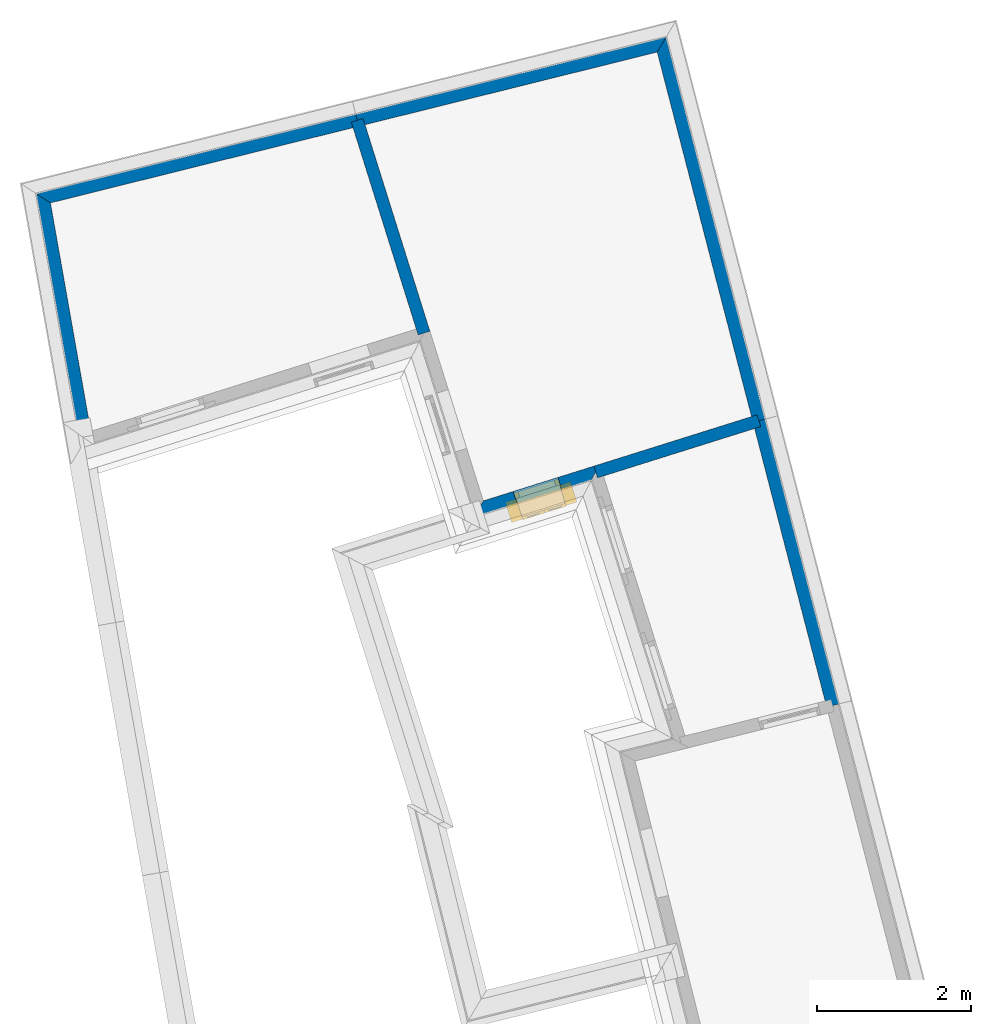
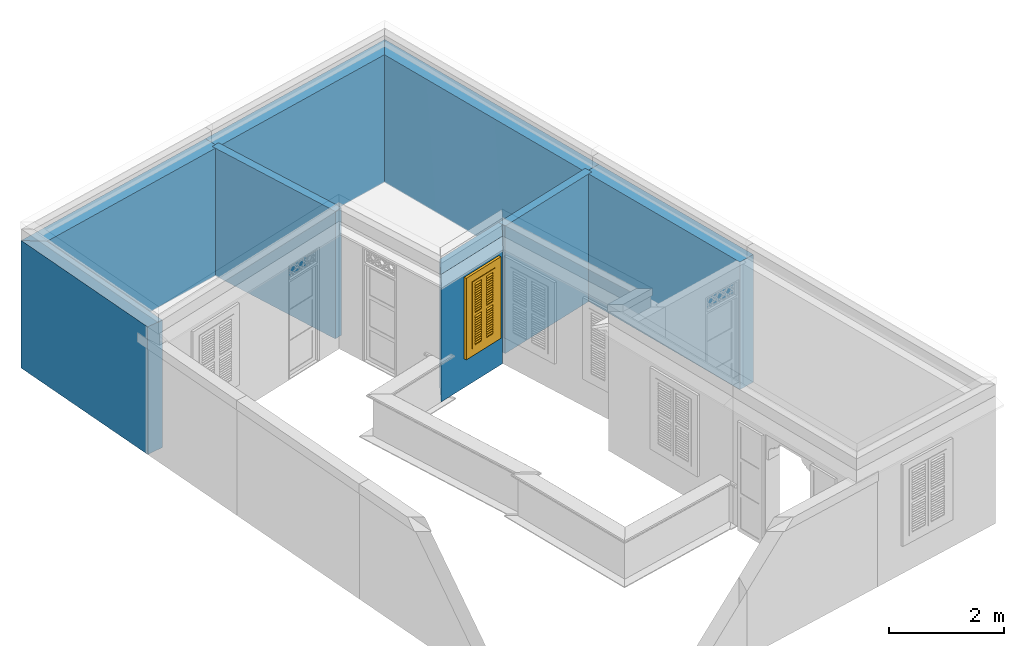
# One storey, part 10 of 13: 8 walls, 1 window, 1 opening.
"""IFC4 building model written with IfcOpenShell, lengths in metres."""

import ifcopenshell
import ifcopenshell.guid

model = None  # the IFC model being written
_history = None  # IfcOwnerHistory: only IFC2X3 demands one
_inside = {}  # id of a spatial element -> (the spatial element, [elements in it])
_under = {}  # id of a project, library or spatial element -> (it, [spatial elements below it])
_declared = {}  # id of a project -> (the project, [libraries it declares])
_typed = {}  # id of a type object -> (the type object, [elements of that type])
_made_of = {}  # id of a material, layer set ... -> (it, [elements and type objects made of it])


def new_model(schema):
    """Start an empty IFC model of exactly this schema.

    Asked for "IFC4X3", IfcOpenShell would pick the latest addendum, in which some entities
    have other attributes; the version numbers below select the first issue.
    IFC2X3 requires an IfcOwnerHistory on every rooted entity: one is made here for all.
    """
    global model, _history
    if schema == "IFC4X3":
        model = ifcopenshell.file(schema_version=(4, 3, 0, 0))
    else:
        model = ifcopenshell.file(schema=schema)
    _inside.clear()
    _under.clear()
    _declared.clear()
    _typed.clear()
    _made_of.clear()
    _history = None
    if model.schema == "IFC2X3":
        org = make("IfcOrganization", Name="unknown")
        user = make(
            "IfcPersonAndOrganization",
            ThePerson=make("IfcPerson", FamilyName="unknown"),
            TheOrganization=org,
        )
        app = make(
            "IfcApplication",
            ApplicationDeveloper=org,
            Version="unknown",
            ApplicationFullName="unknown",
            ApplicationIdentifier="unknown",
        )
        _history = make(
            "IfcOwnerHistory",
            OwningUser=user,
            OwningApplication=app,
            ChangeAction="ADDED",
            CreationDate=0,
        )
    return model


def make(cls, **values):
    """One entity of the class cls with the attributes given. An attribute that is None is left unset."""
    return model.create_entity(
        cls, **{name: value for name, value in values.items() if value is not None}
    )


def rooted(cls, **values):
    """An entity with a GlobalId (a new one), such as an element, a storey or a relation."""
    return make(cls, GlobalId=ifcopenshell.guid.new(), OwnerHistory=_history, **values)


def si_unit(unit_type, name, prefix=None):
    """IfcSIUnit, for example si_unit("LENGTHUNIT", "METRE", prefix="MILLI")."""
    return make("IfcSIUnit", UnitType=unit_type, Prefix=prefix, Name=name)


def assignment(units):
    """IfcUnitAssignment: the units of a project."""
    return None if units is None else make("IfcUnitAssignment", Units=units)


def point(xyz):
    """IfcCartesianPoint."""
    return None if xyz is None else make("IfcCartesianPoint", Coordinates=xyz)


def direction(xyz):
    """IfcDirection."""
    return None if xyz is None else make("IfcDirection", DirectionRatios=xyz)


def frame(location, z_axis=None, x_axis=None):
    """IfcAxis2Placement3D, a coordinate frame: its origin and axes. An axis left out is left unset."""
    return make(
        "IfcAxis2Placement3D",
        Location=point(location),
        Axis=direction(z_axis),
        RefDirection=direction(x_axis),
    )


def origin():
    """The frame at (0, 0, 0) with its axes left unset."""
    return frame((0.0, 0.0, 0.0))


def origin_with_axes():
    """The frame at (0, 0, 0) with the z axis (0, 0, 1) and the x axis (1, 0, 0) written out."""
    return frame((0.0, 0.0, 0.0), z_axis=(0.0, 0.0, 1.0), x_axis=(1.0, 0.0, 0.0))


def place(relative_to, where):
    """IfcLocalPlacement: puts the frame where relative to a parent placement (None: the world)."""
    return make(
        "IfcLocalPlacement", PlacementRelTo=relative_to, RelativePlacement=where
    )


def context(
    kind, dimensions, precision=None, world=None, true_north=None, identifier=None
):
    """IfcGeometricRepresentationContext, for example the 3D "Model" context."""
    return make(
        "IfcGeometricRepresentationContext",
        ContextIdentifier=identifier,
        ContextType=kind,
        CoordinateSpaceDimension=dimensions,
        Precision=precision,
        WorldCoordinateSystem=world,
        TrueNorth=true_north,
    )


def subcontext(parent, identifier, kind, view, scale=None):
    """IfcGeometricRepresentationSubContext, for example "Body" below "Model"."""
    return make(
        "IfcGeometricRepresentationSubContext",
        ContextIdentifier=identifier,
        ContextType=kind,
        ParentContext=parent,
        TargetScale=scale,
        TargetView=view,
    )


def project(units=None, contexts=None):
    """IfcProject with its units and contexts."""
    return rooted(
        "IfcProject",
        Name="project",
        RepresentationContexts=contexts,
        UnitsInContext=assignment(units),
    )


def spatial(cls, under=None, at=None, **own):
    """A site, building, storey or space (cls), placed at a placement, below another one or the project."""
    s = rooted(cls, ObjectPlacement=at, **own)
    if under is not None:
        _under.setdefault(under.id(), (under, []))[1].append(s)
    return s


def polyline(points):
    """IfcPolyline through the points."""
    return make("IfcPolyline", Points=[point(p) for p in points])


def outline(outer, holes=None, kind="AREA"):
    """IfcArbitraryClosedProfileDef: a profile drawn as a closed curve; with holes, ...WithVoids."""
    if holes is None:
        return make("IfcArbitraryClosedProfileDef", ProfileType=kind, OuterCurve=outer)
    return make(
        "IfcArbitraryProfileDefWithVoids",
        ProfileType=kind,
        OuterCurve=outer,
        InnerCurves=holes,
    )


def extrude(swept, where, along, depth):
    """IfcExtrudedAreaSolid: the profile swept, set in the frame where, extruded along a direction by depth."""
    return make(
        "IfcExtrudedAreaSolid",
        SweptArea=swept,
        Position=where,
        ExtrudedDirection=direction(along),
        Depth=depth,
    )


def faces_of(points, faces, orient=None, outer=None):
    """IfcFace entities. A face is a list of loops; a loop is a list of indices into points, from 0.

    orient and outer hold one flag for each loop. By default every Orientation is true, the
    first loop of a face is its IfcFaceOuterBound and the others are IfcFaceBound.
    """
    made = []
    for i, loops in enumerate(faces):
        bounds = []
        for j, loop in enumerate(loops):
            is_outer = j == 0 if outer is None else outer[i][j]
            bounds.append(
                make(
                    "IfcFaceOuterBound" if is_outer else "IfcFaceBound",
                    Bound=make("IfcPolyLoop", Polygon=[points[k] for k in loop]),
                    Orientation=True if orient is None else orient[i][j],
                )
            )
        made.append(make("IfcFace", Bounds=bounds))
    return made


def faceted_brep(points, faces, orient=None, outer=None, voids=None):
    """IfcFacetedBrep: a solid bounded by flat faces; with voids (closed shells), ...WithVoids."""
    shared = [point(p) for p in points]
    hull = make("IfcClosedShell", CfsFaces=faces_of(shared, faces, orient, outer))
    if voids is None:
        return make("IfcFacetedBrep", Outer=hull)
    return make(
        "IfcFacetedBrepWithVoids",
        Outer=hull,
        Voids=[
            make(cls, CfsFaces=faces_of(shared, fs, o, b)) for cls, fs, o, b in voids
        ],
    )


def shape(context_of_items, identifier, shape_type, items):
    """IfcShapeRepresentation: the items that make up one representation, for example the "Body"."""
    return make(
        "IfcShapeRepresentation",
        ContextOfItems=context_of_items,
        RepresentationIdentifier=identifier,
        RepresentationType=shape_type,
        Items=items,
    )


def source(mapping_origin, context_of_items, identifier, shape_type, items):
    """IfcRepresentationMap: a shape defined once, which mapped items show again and again."""
    return make(
        "IfcRepresentationMap",
        MappingOrigin=mapping_origin,
        MappedRepresentation=shape(context_of_items, identifier, shape_type, items),
    )


def transform(
    local_origin,
    x_axis=None,
    y_axis=None,
    z_axis=None,
    scale=None,
    scale2=None,
    scale3=None,
    uniform=True,
):
    """IfcCartesianTransformationOperator3D, or its non-uniform kind. x_axis, y_axis, z_axis: its Axis1, 2, 3."""
    if uniform:
        return make(
            "IfcCartesianTransformationOperator3D",
            Axis1=direction(x_axis),
            Axis2=direction(y_axis),
            LocalOrigin=point(local_origin),
            Scale=scale,
            Axis3=direction(z_axis),
        )
    return make(
        "IfcCartesianTransformationOperator3DnonUniform",
        Axis1=direction(x_axis),
        Axis2=direction(y_axis),
        LocalOrigin=point(local_origin),
        Scale=scale,
        Axis3=direction(z_axis),
        Scale2=scale2,
        Scale3=scale3,
    )


def mapped(mapping_source, mapping_target):
    """IfcMappedItem: shows the shape of a source again, moved by a transform."""
    return make(
        "IfcMappedItem", MappingSource=mapping_source, MappingTarget=mapping_target
    )


def material(Name=None, Category=None):
    """IfcMaterial."""
    return make("IfcMaterial", Name=Name, Category=Category)


def layer(
    of_material, thickness, ventilated=None, Name=None, Category=None, Priority=None
):
    """IfcMaterialLayer: one layer of a wall or slab, of a material (None: an air gap)."""
    return make(
        "IfcMaterialLayer",
        Material=of_material,
        LayerThickness=thickness,
        IsVentilated=ventilated,
        Name=Name,
        Category=Category,
        Priority=Priority,
    )


def layer_set(layers, Name=None):
    """IfcMaterialLayerSet."""
    return make("IfcMaterialLayerSet", MaterialLayers=layers, LayerSetName=Name)


def layer_usage(for_layer_set, set_direction, sense, offset, extent=None):
    """IfcMaterialLayerSetUsage: how a layer set lies in its element."""
    return make(
        "IfcMaterialLayerSetUsage",
        ForLayerSet=for_layer_set,
        LayerSetDirection=set_direction,
        DirectionSense=sense,
        OffsetFromReferenceLine=offset,
        ReferenceExtent=extent,
    )


def made_of(thing, what):
    """Note that an element or type object is made of a material, layer set ...; save() writes the relation."""
    if what is not None:
        _made_of.setdefault(what.id(), (what, []))[1].append(thing)
    return thing


def type_object(cls, material=None, **own):
    """A type object (cls), such as IfcWallType, which elements share."""
    return made_of(rooted(cls, **own), material)


def type_shapes(of_type, sources):
    """Give a type object the sources (RepresentationMaps) that its elements show as mapped items."""
    of_type.RepresentationMaps = sources


def element(
    cls,
    number,
    at=None,
    inside=None,
    cuts=None,
    type_object=None,
    material=None,
    context=None,
    identifier="Body",
    shape_type=None,
    held_by="IfcProductDefinitionShape",
    body=None,
    shapes=None,
    **own,
):
    """One element of the class cls, such as IfcWall. Its Tag is "e" and its number.

    at: its placement. inside: the storey or other place that contains it. cuts: it is an
    opening in that element (IfcRelVoidsElement). A single representation is given by context,
    identifier, shape_type and body (its items); several are given by shapes. held_by: the class
    of the entity that holds the representations. save() writes the other relations.
    """
    e = rooted(cls, Tag="e%d" % number, ObjectPlacement=at, **own)
    if body is not None:
        shapes = [shape(context, identifier, shape_type, body)]
    if shapes is not None:
        e.Representation = make(held_by, Representations=shapes)
    if inside is not None:
        _inside.setdefault(inside.id(), (inside, []))[1].append(e)
    if cuts is not None:
        rooted(
            "IfcRelVoidsElement", RelatingBuildingElement=cuts, RelatedOpeningElement=e
        )
    if type_object is not None:
        _typed.setdefault(type_object.id(), (type_object, []))[1].append(e)
    return made_of(e, material)


def fill(opening, filler):
    """IfcRelFillsElement: the door or window that sits in an opening."""
    return rooted(
        "IfcRelFillsElement",
        RelatingOpeningElement=opening,
        RelatedBuildingElement=filler,
    )


def aggregate(whole, parts):
    """IfcRelAggregates: a whole, such as a stair, and the parts it consists of."""
    return rooted("IfcRelAggregates", RelatingObject=whole, RelatedObjects=parts)


def save(model, path):
    """Write the relations noted so far, then the file.

    IfcRelAggregates (storeys below a building ...), IfcRelContainedInSpatialStructure (elements
    in a storey), IfcRelDefinesByType, IfcRelAssociatesMaterial and IfcRelDeclares: one each for
    every whole, place, type object, material and project.
    """
    for whole, parts in _under.values():
        aggregate(whole, parts)
    for where, things in _inside.values():
        rooted(
            "IfcRelContainedInSpatialStructure",
            RelatedElements=things,
            RelatingStructure=where,
        )
    for kind, things in _typed.values():
        rooted("IfcRelDefinesByType", RelatedObjects=things, RelatingType=kind)
    for what, things in _made_of.values():
        rooted("IfcRelAssociatesMaterial", RelatedObjects=things, RelatingMaterial=what)
    for by, libraries in _declared.values():
        rooted("IfcRelDeclares", RelatingContext=by, RelatedDefinitions=libraries)
    model.write(path)


model = new_model("IFC4")

# Units and contexts
model_context = context("Model", 3, world=origin_with_axes())
body_context = subcontext(model_context, "Body", "Model", "MODEL_VIEW")
ifc_project = project(units=[si_unit("PLANEANGLEUNIT", "RADIAN"), si_unit("MASSUNIT", "GRAM", prefix="KILO"), si_unit("FORCEUNIT", "NEWTON", prefix="KILO"), si_unit("LENGTHUNIT", "METRE"), si_unit("AREAUNIT", "SQUARE_METRE"), si_unit("VOLUMEUNIT", "CUBIC_METRE")], contexts=[model_context, model_context])

# Site, building, storey
site_placement = place(None, origin_with_axes())
site = spatial("IfcSite", under=ifc_project, at=site_placement, Name="Site plot-0", CompositionType="ELEMENT")
building_placement = place(None, origin_with_axes())
building = spatial("IfcBuilding", under=site, at=building_placement, Name="Building plot-0", CompositionType="ELEMENT")
storey_placement = place(None, frame((0.0, 0.0, 3.6), z_axis=(0.0, 0.0, 1.0), x_axis=(1.0, 0.0, 0.0)))
storey = spatial("IfcBuildingStorey", under=building, at=storey_placement, Name="plot-0 1", CompositionType="ELEMENT", Elevation=3.6)

# Wall, opening, window
ifc_material_1 = material(Name="Masonry")
ifc_layer_1 = layer(ifc_material_1, 0.33, ventilated=False)
ifc_layer_set_1 = layer_set([ifc_layer_1], Name="exterior_0.08_0.25")
ifc_layer_usage_1 = layer_usage(ifc_layer_set_1, "AXIS2", "POSITIVE", -0.25)
wall_type_1 = type_object("IfcWallType", Name="exterior_0.08_0.25", PredefinedType="SOLIDWALL", material=ifc_layer_set_1)
wall_1_placement = place(storey_placement, frame((4.82576473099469, 9.29464982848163, 0.0), z_axis=(0.0, 0.0, 1.0), x_axis=(0.954025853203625, 0.299724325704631, 0.0)))
wall_1 = element("IfcWall", 1, at=wall_1_placement, inside=storey, type_object=wall_type_1, material=ifc_layer_usage_1, Name="exterior", context=body_context, shape_type="SweptSolid", body=[
    extrude(outline(polyline([(0.0799999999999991, 0.0799999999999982), (-0.25, -0.250000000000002), (1.33557370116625, -0.25), (1.66557370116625, 0.0799999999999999), (0.0799999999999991, 0.0799999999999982)])), origin_with_axes(), (0.0, 0.0, 1.0), 2.7),
])
opening_placement = place(wall_1_placement, frame((0.487786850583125, 0.0, 0.75)))
opening = element("IfcOpeningElement", 2, at=opening_placement, cuts=wall_1, Name="My Opening", ObjectType="Opening", context=body_context, shape_type="SweptSolid", body=[
    extrude(outline(polyline([(0.0, -0.27), (0.609999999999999, -0.27), (0.61, 1.1), (6.66133814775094e-16, 1.1), (0.0, -0.27)])), origin_with_axes(), (0.0, 0.0, 1.0), 1.445),
])
window_type = type_object("IfcWindowType", Name="shuttered_shorter_narrow", PartitioningType="DOUBLE_PANEL_HORIZONTAL", PredefinedType="NOTDEFINED")
shared_shape = source(origin(), body_context, "Body", "Brep", [
    faceted_brep([(0.243, 0.0, 0.622), (0.074, 0.0, 0.622), (0.074, 0.0, 0.632), (0.243, 0.0, 0.632), (0.074, -0.04, 0.592), (0.243, -0.04, 0.592), (0.243, -0.04, 0.582), (0.074, -0.04, 0.582), (0.367, 0.0, 0.682), (0.536, 0.0, 0.682), (0.536, 0.0, 0.672), (0.367, 0.0, 0.672), (0.367, -0.04, 0.642), (0.536, -0.04, 0.642), (0.536, -0.04, 0.632), (0.367, -0.04, 0.632), (0.367, 0.0, 0.632), (0.536, 0.0, 0.632), (0.536, 0.0, 0.622), (0.367, 0.0, 0.622), (0.367, -0.04, 0.592), (0.536, -0.04, 0.592), (0.536, -0.04, 0.582), (0.367, -0.04, 0.582), (0.367, 0.0, 0.232), (0.536, 0.0, 0.232), (0.536, 0.0, 0.222), (0.367, 0.0, 0.222), (0.367, -0.04, 0.192), (0.536, -0.04, 0.192), (0.536, -0.04, 0.182), (0.367, -0.04, 0.182), (0.367, 0.0, 0.532), (0.536, 0.0, 0.532), (0.536, 0.0, 0.522), (0.367, 0.0, 0.522), (0.367, -0.04, 0.492), (0.536, -0.04, 0.492), (0.536, -0.04, 0.482), (0.367, -0.04, 0.482), (0.367, 0.0, 0.482), (0.536, 0.0, 0.482), (0.536, 0.0, 0.472), (0.367, 0.0, 0.472), (0.367, -0.04, 0.442), (0.536, -0.04, 0.442), (0.536, -0.04, 0.432), (0.367, -0.04, 0.432), (0.367, 0.0, 0.582), (0.536, 0.0, 0.582), (0.536, 0.0, 0.572), (0.367, 0.0, 0.572), (0.367, -0.04, 0.542), (0.536, -0.04, 0.542), (0.536, -0.04, 0.532), (0.367, -0.04, 0.532), (0.367, 0.0, 0.182), (0.536, 0.0, 0.182), (0.536, 0.0, 0.172), (0.367, 0.0, 0.172), (0.367, -0.04, 0.142), (0.536, -0.04, 0.142), (0.536, -0.04, 0.132), (0.367, -0.04, 0.132), (0.367, 0.0, 0.382), (0.536, 0.0, 0.382), (0.536, 0.0, 0.372), (0.367, 0.0, 0.372), (0.367, -0.04, 0.342), (0.536, -0.04, 0.342), (0.536, -0.04, 0.332), (0.367, -0.04, 0.332), (0.367, 0.0, 0.432), (0.536, 0.0, 0.432), (0.536, 0.0, 0.422), (0.367, 0.0, 0.422), (0.367, -0.04, 0.392), (0.536, -0.04, 0.392), (0.536, -0.04, 0.382), (0.367, -0.04, 0.382), (0.367, 0.0, 0.132), (0.536, 0.0, 0.132), (0.536, 0.0, 0.122), (0.367, 0.0, 0.122), (0.367, -0.04, 0.092), (0.536, -0.04, 0.092), (0.536, -0.04, 0.082), (0.367, -0.04, 0.082), (0.367, 0.0, 0.282), (0.536, 0.0, 0.282), (0.536, 0.0, 0.272), (0.367, 0.0, 0.272), (0.367, -0.04, 0.242), (0.536, -0.04, 0.242), (0.536, -0.04, 0.232), (0.367, -0.04, 0.232), (0.367, 0.0, 0.332), (0.536, 0.0, 0.332), (0.536, 0.0, 0.322), (0.367, 0.0, 0.322), (0.367, -0.04, 0.292), (0.536, -0.04, 0.292), (0.536, -0.04, 0.282), (0.367, -0.04, 0.282), (0.367, 0.0, 1.362667), (0.536, 0.0, 1.362667), (0.536, 0.0, 1.352667), (0.367, 0.0, 1.352667), (0.367, -0.04, 1.322667), (0.536, -0.04, 1.322667), (0.536, -0.04, 1.312667), (0.367, -0.04, 1.312667), (0.367, 0.0, 1.312667), (0.536, 0.0, 1.312667), (0.536, 0.0, 1.302667), (0.367, 0.0, 1.302667), (0.367, -0.04, 1.272667), (0.536, -0.04, 1.272667), (0.536, -0.04, 1.262667), (0.367, -0.04, 1.262667), (0.367, 0.0, 0.912667), (0.536, 0.0, 0.912667), (0.536, 0.0, 0.902667), (0.367, 0.0, 0.902667), (0.367, -0.04, 0.872667), (0.536, -0.04, 0.872667), (0.536, -0.04, 0.862667), (0.367, -0.04, 0.862667), (0.367, 0.0, 1.212667), (0.536, 0.0, 1.212667), (0.536, 0.0, 1.202667), (0.367, 0.0, 1.202667), (0.367, -0.04, 1.172667), (0.536, -0.04, 1.172667), (0.536, -0.04, 1.162667), (0.367, -0.04, 1.162667), (0.367, 0.0, 1.162667), (0.536, 0.0, 1.162667), (0.536, 0.0, 1.152667), (0.367, 0.0, 1.152667), (0.367, -0.04, 1.122667), (0.536, -0.04, 1.122667), (0.536, -0.04, 1.112667), (0.367, -0.04, 1.112667), (0.367, 0.0, 1.262667), (0.536, 0.0, 1.262667), (0.536, 0.0, 1.252667), (0.367, 0.0, 1.252667), (0.367, -0.04, 1.222667), (0.536, -0.04, 1.222667), (0.536, -0.04, 1.212667), (0.367, -0.04, 1.212667), (0.367, 0.0, 0.862667), (0.536, 0.0, 0.862667), (0.536, 0.0, 0.852667), (0.367, 0.0, 0.852667), (0.367, -0.04, 0.822667), (0.536, -0.04, 0.822667), (0.536, -0.04, 0.812667), (0.367, -0.04, 0.812667), (0.367, 0.0, 1.062667), (0.536, 0.0, 1.062667), (0.536, 0.0, 1.052667), (0.367, 0.0, 1.052667), (0.367, -0.04, 1.022667), (0.536, -0.04, 1.022667), (0.536, -0.04, 1.012667), (0.367, -0.04, 1.012667), (0.367, 0.0, 1.112667), (0.536, 0.0, 1.112667), (0.536, 0.0, 1.102667), (0.367, 0.0, 1.102667), (0.367, -0.04, 1.072667), (0.536, -0.04, 1.072667), (0.536, -0.04, 1.062667), (0.367, -0.04, 1.062667), (0.367, 0.0, 0.812667), (0.536, 0.0, 0.812667), (0.536, 0.0, 0.802667), (0.367, 0.0, 0.802667), (0.367, -0.04, 0.772667), (0.536, -0.04, 0.772667), (0.536, -0.04, 0.762667), (0.367, -0.04, 0.762667), (0.367, 0.0, 0.962667), (0.536, 0.0, 0.962667), (0.536, 0.0, 0.952667), (0.367, 0.0, 0.952667), (0.367, -0.04, 0.922667), (0.536, -0.04, 0.922667), (0.536, -0.04, 0.912667), (0.367, -0.04, 0.912667), (0.367, 0.0, 1.012667), (0.536, 0.0, 1.012667), (0.536, 0.0, 1.002667), (0.367, 0.0, 1.002667), (0.367, -0.04, 0.972667), (0.536, -0.04, 0.972667), (0.536, -0.04, 0.962667), (0.367, -0.04, 0.962667), (0.074, 0.0, 0.682), (0.243, 0.0, 0.682), (0.243, 0.0, 0.672), (0.074, 0.0, 0.672), (0.074, -0.04, 0.642), (0.243, -0.04, 0.642), (0.243, -0.04, 0.632), (0.074, -0.04, 0.632), (0.074, 0.0, 0.232), (0.243, 0.0, 0.232), (0.243, 0.0, 0.222), (0.074, 0.0, 0.222), (0.074, -0.04, 0.192), (0.243, -0.04, 0.192), (0.243, -0.04, 0.182), (0.074, -0.04, 0.182), (0.074, 0.0, 0.532), (0.243, 0.0, 0.532), (0.243, 0.0, 0.522), (0.074, 0.0, 0.522), (0.074, -0.04, 0.492), (0.243, -0.04, 0.492), (0.243, -0.04, 0.482), (0.074, -0.04, 0.482), (0.074, 0.0, 0.482), (0.243, 0.0, 0.482), (0.243, 0.0, 0.472), (0.074, 0.0, 0.472), (0.074, -0.04, 0.442), (0.243, -0.04, 0.442), (0.243, -0.04, 0.432), (0.074, -0.04, 0.432), (0.074, 0.0, 0.582), (0.243, 0.0, 0.582), (0.243, 0.0, 0.572), (0.074, 0.0, 0.572), (0.074, -0.04, 0.542), (0.243, -0.04, 0.542), (0.243, -0.04, 0.532), (0.074, -0.04, 0.532), (0.074, 0.0, 0.182), (0.243, 0.0, 0.182), (0.243, 0.0, 0.172), (0.074, 0.0, 0.172), (0.074, -0.04, 0.142), (0.243, -0.04, 0.142), (0.243, -0.04, 0.132), (0.074, -0.04, 0.132), (0.074, 0.0, 0.382), (0.243, 0.0, 0.382), (0.243, 0.0, 0.372), (0.074, 0.0, 0.372), (0.074, -0.04, 0.342), (0.243, -0.04, 0.342), (0.243, -0.04, 0.332), (0.074, -0.04, 0.332), (0.074, 0.0, 0.432), (0.243, 0.0, 0.432), (0.243, 0.0, 0.422), (0.074, 0.0, 0.422), (0.074, -0.04, 0.392), (0.243, -0.04, 0.392), (0.243, -0.04, 0.382), (0.074, -0.04, 0.382), (0.074, 0.0, 0.132), (0.243, 0.0, 0.132), (0.243, 0.0, 0.122), (0.074, 0.0, 0.122), (0.074, -0.04, 0.092), (0.243, -0.04, 0.092), (0.243, -0.04, 0.082), (0.074, -0.04, 0.082), (0.074, 0.0, 0.282), (0.243, 0.0, 0.282), (0.243, 0.0, 0.272), (0.074, 0.0, 0.272), (0.074, -0.04, 0.242), (0.243, -0.04, 0.242), (0.243, -0.04, 0.232), (0.074, -0.04, 0.232), (0.074, 0.0, 0.332), (0.243, 0.0, 0.332), (0.243, 0.0, 0.322), (0.074, 0.0, 0.322), (0.074, -0.04, 0.292), (0.243, -0.04, 0.292), (0.243, -0.04, 0.282), (0.074, -0.04, 0.282), (0.074, 0.0, 1.362667), (0.243, 0.0, 1.362667), (0.243, 0.0, 1.352667), (0.074, 0.0, 1.352667), (0.074, -0.04, 1.322667), (0.243, -0.04, 1.322667), (0.243, -0.04, 1.312667), (0.074, -0.04, 1.312667), (0.074, 0.0, 1.312667), (0.243, 0.0, 1.312667), (0.243, 0.0, 1.302667), (0.074, 0.0, 1.302667), (0.074, -0.04, 1.272667), (0.243, -0.04, 1.272667), (0.243, -0.04, 1.262667), (0.074, -0.04, 1.262667), (0.074, 0.0, 0.912667), (0.243, 0.0, 0.912667), (0.243, 0.0, 0.902667), (0.074, 0.0, 0.902667), (0.074, -0.04, 0.872667), (0.243, -0.04, 0.872667), (0.243, -0.04, 0.862667), (0.074, -0.04, 0.862667), (0.074, 0.0, 1.212667), (0.243, 0.0, 1.212667), (0.243, 0.0, 1.202667), (0.074, 0.0, 1.202667), (0.074, -0.04, 1.172667), (0.243, -0.04, 1.172667), (0.243, -0.04, 1.162667), (0.074, -0.04, 1.162667), (0.074, 0.0, 1.162667), (0.243, 0.0, 1.162667), (0.243, 0.0, 1.152667), (0.074, 0.0, 1.152667), (0.074, -0.04, 1.122667), (0.243, -0.04, 1.122667), (0.243, -0.04, 1.112667), (0.074, -0.04, 1.112667), (0.074, 0.0, 1.262667), (0.243, 0.0, 1.262667), (0.243, 0.0, 1.252667), (0.074, 0.0, 1.252667), (0.074, -0.04, 1.222667), (0.243, -0.04, 1.222667), (0.243, -0.04, 1.212667), (0.074, -0.04, 1.212667), (0.074, 0.0, 0.862667), (0.243, 0.0, 0.862667), (0.243, 0.0, 0.852667), (0.074, 0.0, 0.852667), (0.074, -0.04, 0.822667), (0.243, -0.04, 0.822667), (0.243, -0.04, 0.812667), (0.074, -0.04, 0.812667), (0.074, 0.0, 1.062667), (0.243, 0.0, 1.062667), (0.243, 0.0, 1.052667), (0.074, 0.0, 1.052667), (0.074, -0.04, 1.022667), (0.243, -0.04, 1.022667), (0.243, -0.04, 1.012667), (0.074, -0.04, 1.012667), (0.074, 0.0, 1.112667), (0.243, 0.0, 1.112667), (0.243, 0.0, 1.102667), (0.074, 0.0, 1.102667), (0.074, -0.04, 1.072667), (0.243, -0.04, 1.072667), (0.243, -0.04, 1.062667), (0.074, -0.04, 1.062667), (0.074, 0.0, 0.812667), (0.243, 0.0, 0.812667), (0.243, 0.0, 0.802667), (0.074, 0.0, 0.802667), (0.074, -0.04, 0.772667), (0.243, -0.04, 0.772667), (0.243, -0.04, 0.762667), (0.074, -0.04, 0.762667), (0.074, 0.0, 0.962667), (0.243, 0.0, 0.962667), (0.243, 0.0, 0.952667), (0.074, 0.0, 0.952667), (0.074, -0.04, 0.922667), (0.243, -0.04, 0.922667), (0.243, -0.04, 0.912667), (0.074, -0.04, 0.912667), (0.074, 0.0, 1.012667), (0.243, 0.0, 1.012667), (0.243, 0.0, 1.002667), (0.074, 0.0, 1.002667), (0.074, -0.04, 0.972667), (0.243, -0.04, 0.972667), (0.243, -0.04, 0.962667), (0.074, -0.04, 0.962667), (0.367, -0.04, 0.072), (0.307, -0.04, 0.012), (0.596, -0.04, 0.012), (0.536, -0.04, 0.072), (0.307, -0.04, 0.692667), (0.367, -0.04, 0.692667), (0.307, 0.0, 0.012), (0.596, 0.0, 0.012), (0.536, -0.04, 0.692667), (0.596, -0.04, 0.692667), (0.536, 0.0, 0.072), (0.367, 0.0, 0.072), (0.307, 0.0, 0.692667), (0.367, 0.0, 0.692667), (0.367, -0.04, 0.752666), (0.307, -0.04, 0.752666), (0.596, 0.0, 0.692667), (0.536, 0.0, 0.692667), (0.536, -0.04, 0.752666), (0.596, -0.04, 0.752666), (0.307, 0.0, 0.752666), (0.307, -0.04, 1.433333), (0.367, -0.04, 1.373333), (0.596, 0.0, 0.752666), (0.536, -0.04, 1.373333), (0.596, -0.04, 1.433333), (0.307, 0.0, 1.433333), (0.367, 0.0, 0.752666), (0.536, 0.0, 0.752666), (0.367, 0.0, 1.373333), (0.596, 0.0, 1.433333), (0.536, 0.0, 1.373333), (0.074, -0.04, 0.072), (0.014, -0.04, 0.012), (0.303, -0.04, 0.012), (0.243, -0.04, 0.072), (0.014, -0.04, 0.692667), (0.074, -0.04, 0.692667), (0.014, 0.0, 0.012), (0.303, 0.0, 0.012), (0.243, -0.04, 0.692667), (0.303, -0.04, 0.692667), (0.243, 0.0, 0.072), (0.074, 0.0, 0.072), (0.014, 0.0, 0.692667), (0.074, 0.0, 0.692667), (0.074, -0.04, 0.752666), (0.014, -0.04, 0.752666), (0.303, 0.0, 0.692667), (0.243, 0.0, 0.692667), (0.243, -0.04, 0.752666), (0.303, -0.04, 0.752666), (0.014, 0.0, 0.752666), (0.014, -0.04, 1.433333), (0.074, -0.04, 1.373333), (0.303, 0.0, 0.752666), (0.243, -0.04, 1.373333), (0.303, -0.04, 1.433333), (0.014, 0.0, 1.433333), (0.074, 0.0, 0.752666), (0.243, 0.0, 0.752666), (0.074, 0.0, 1.373333), (0.303, 0.0, 1.433333), (0.243, 0.0, 1.373333), (0.0, 0.33, 1.445), (0.61, 0.33, 1.445), (0.55, 0.33, 1.385), (0.06, 0.33, 1.385), (0.61, 0.25, 1.445), (0.0, 0.25, 1.445), (0.61, 0.25, 1.445), (0.55, 0.33, 0.06), (0.61, 0.33, 0.0), (0.55, 0.25, 1.385), (0.06, 0.25, 1.385), (0.0, 0.33, 0.0), (0.06, 0.33, 0.06), (0.0, 0.25, 0.0), (0.61, 0.25, 0.0), (0.55, 0.25, 0.06), (0.06, 0.25, 0.06), (0.75, 0.25, 1.585), (-0.14, 0.25, 1.585), (-0.14, -0.03, 1.585), (0.75, -0.03, 1.585), (0.6, -0.03, 1.435), (0.01, -0.03, 1.435), (0.01, 0.25, 1.435), (0.6, 0.25, 1.435), (0.6, 0.25, 0.01), (0.6, -0.03, 0.01), (0.75, -0.03, -0.14), (0.75, 0.25, -0.14), (0.01, -0.03, 0.01), (0.01, 0.25, 0.01), (-0.14, -0.03, -0.14), (-0.14, 0.25, -0.14)], [[[0, 1, 2, 3]], [[4, 5, 3, 2]], [[5, 6, 0, 3]], [[1, 0, 6, 7]], [[2, 1, 7, 4]], [[5, 4, 7, 6]], [[8, 9, 10, 11]], [[12, 13, 9, 8]], [[13, 14, 10, 9]], [[14, 15, 11, 10]], [[15, 12, 8, 11]], [[13, 12, 15, 14]], [[16, 17, 18, 19]], [[20, 21, 17, 16]], [[21, 22, 18, 17]], [[22, 23, 19, 18]], [[23, 20, 16, 19]], [[21, 20, 23, 22]], [[24, 25, 26, 27]], [[28, 29, 25, 24]], [[29, 30, 26, 25]], [[30, 31, 27, 26]], [[31, 28, 24, 27]], [[29, 28, 31, 30]], [[32, 33, 34, 35]], [[36, 37, 33, 32]], [[37, 38, 34, 33]], [[38, 39, 35, 34]], [[39, 36, 32, 35]], [[37, 36, 39, 38]], [[40, 41, 42, 43]], [[44, 45, 41, 40]], [[45, 46, 42, 41]], [[46, 47, 43, 42]], [[47, 44, 40, 43]], [[45, 44, 47, 46]], [[48, 49, 50, 51]], [[52, 53, 49, 48]], [[53, 54, 50, 49]], [[54, 55, 51, 50]], [[55, 52, 48, 51]], [[53, 52, 55, 54]], [[56, 57, 58, 59]], [[60, 61, 57, 56]], [[61, 62, 58, 57]], [[62, 63, 59, 58]], [[63, 60, 56, 59]], [[61, 60, 63, 62]], [[64, 65, 66, 67]], [[68, 69, 65, 64]], [[69, 70, 66, 65]], [[70, 71, 67, 66]], [[71, 68, 64, 67]], [[69, 68, 71, 70]], [[72, 73, 74, 75]], [[76, 77, 73, 72]], [[77, 78, 74, 73]], [[78, 79, 75, 74]], [[79, 76, 72, 75]], [[77, 76, 79, 78]], [[80, 81, 82, 83]], [[84, 85, 81, 80]], [[85, 86, 82, 81]], [[86, 87, 83, 82]], [[87, 84, 80, 83]], [[85, 84, 87, 86]], [[88, 89, 90, 91]], [[92, 93, 89, 88]], [[93, 94, 90, 89]], [[94, 95, 91, 90]], [[95, 92, 88, 91]], [[93, 92, 95, 94]], [[96, 97, 98, 99]], [[100, 101, 97, 96]], [[101, 102, 98, 97]], [[102, 103, 99, 98]], [[103, 100, 96, 99]], [[101, 100, 103, 102]], [[104, 105, 106, 107]], [[108, 109, 105, 104]], [[109, 110, 106, 105]], [[110, 111, 107, 106]], [[111, 108, 104, 107]], [[109, 108, 111, 110]], [[112, 113, 114, 115]], [[116, 117, 113, 112]], [[117, 118, 114, 113]], [[118, 119, 115, 114]], [[119, 116, 112, 115]], [[117, 116, 119, 118]], [[120, 121, 122, 123]], [[124, 125, 121, 120]], [[125, 126, 122, 121]], [[126, 127, 123, 122]], [[127, 124, 120, 123]], [[125, 124, 127, 126]], [[128, 129, 130, 131]], [[132, 133, 129, 128]], [[133, 134, 130, 129]], [[134, 135, 131, 130]], [[135, 132, 128, 131]], [[133, 132, 135, 134]], [[136, 137, 138, 139]], [[140, 141, 137, 136]], [[141, 142, 138, 137]], [[142, 143, 139, 138]], [[139, 143, 140, 136]], [[141, 140, 143, 142]], [[144, 145, 146, 147]], [[148, 149, 145, 144]], [[149, 150, 146, 145]], [[150, 151, 147, 146]], [[151, 148, 144, 147]], [[149, 148, 151, 150]], [[152, 153, 154, 155]], [[156, 157, 153, 152]], [[157, 158, 154, 153]], [[158, 159, 155, 154]], [[159, 156, 152, 155]], [[157, 156, 159, 158]], [[160, 161, 162, 163]], [[164, 165, 161, 160]], [[165, 166, 162, 161]], [[166, 167, 163, 162]], [[167, 164, 160, 163]], [[165, 164, 167, 166]], [[168, 169, 170, 171]], [[172, 173, 169, 168]], [[173, 174, 170, 169]], [[174, 175, 171, 170]], [[175, 172, 168, 171]], [[173, 172, 175, 174]], [[176, 177, 178, 179]], [[180, 181, 177, 176]], [[181, 182, 178, 177]], [[182, 183, 179, 178]], [[183, 180, 176, 179]], [[181, 180, 183, 182]], [[184, 185, 186, 187]], [[188, 189, 185, 184]], [[189, 190, 186, 185]], [[190, 191, 187, 186]], [[191, 188, 184, 187]], [[189, 188, 191, 190]], [[192, 193, 194, 195]], [[196, 197, 193, 192]], [[197, 198, 194, 193]], [[198, 199, 195, 194]], [[199, 196, 192, 195]], [[197, 196, 199, 198]], [[200, 201, 202, 203]], [[204, 205, 201, 200]], [[205, 206, 202, 201]], [[206, 207, 203, 202]], [[207, 204, 200, 203]], [[205, 204, 207, 206]], [[208, 209, 210, 211]], [[212, 213, 209, 208]], [[213, 214, 210, 209]], [[214, 215, 211, 210]], [[215, 212, 208, 211]], [[213, 212, 215, 214]], [[216, 217, 218, 219]], [[220, 221, 217, 216]], [[221, 222, 218, 217]], [[222, 223, 219, 218]], [[223, 220, 216, 219]], [[221, 220, 223, 222]], [[224, 225, 226, 227]], [[228, 229, 225, 224]], [[229, 230, 226, 225]], [[230, 231, 227, 226]], [[231, 228, 224, 227]], [[229, 228, 231, 230]], [[232, 233, 234, 235]], [[236, 237, 233, 232]], [[237, 238, 234, 233]], [[238, 239, 235, 234]], [[239, 236, 232, 235]], [[237, 236, 239, 238]], [[240, 241, 242, 243]], [[244, 245, 241, 240]], [[245, 246, 242, 241]], [[246, 247, 243, 242]], [[247, 244, 240, 243]], [[245, 244, 247, 246]], [[248, 249, 250, 251]], [[252, 253, 249, 248]], [[253, 254, 250, 249]], [[254, 255, 251, 250]], [[255, 252, 248, 251]], [[253, 252, 255, 254]], [[256, 257, 258, 259]], [[260, 261, 257, 256]], [[261, 262, 258, 257]], [[262, 263, 259, 258]], [[263, 260, 256, 259]], [[261, 260, 263, 262]], [[264, 265, 266, 267]], [[268, 269, 265, 264]], [[269, 270, 266, 265]], [[270, 271, 267, 266]], [[271, 268, 264, 267]], [[269, 268, 271, 270]], [[272, 273, 274, 275]], [[276, 277, 273, 272]], [[277, 278, 274, 273]], [[278, 279, 275, 274]], [[279, 276, 272, 275]], [[277, 276, 279, 278]], [[280, 281, 282, 283]], [[284, 285, 281, 280]], [[285, 286, 282, 281]], [[286, 287, 283, 282]], [[287, 284, 280, 283]], [[285, 284, 287, 286]], [[288, 289, 290, 291]], [[292, 293, 289, 288]], [[293, 294, 290, 289]], [[294, 295, 291, 290]], [[295, 292, 288, 291]], [[293, 292, 295, 294]], [[296, 297, 298, 299]], [[300, 301, 297, 296]], [[301, 302, 298, 297]], [[302, 303, 299, 298]], [[303, 300, 296, 299]], [[301, 300, 303, 302]], [[304, 305, 306, 307]], [[308, 309, 305, 304]], [[309, 310, 306, 305]], [[310, 311, 307, 306]], [[311, 308, 304, 307]], [[309, 308, 311, 310]], [[312, 313, 314, 315]], [[316, 317, 313, 312]], [[317, 318, 314, 313]], [[318, 319, 315, 314]], [[319, 316, 312, 315]], [[317, 316, 319, 318]], [[320, 321, 322, 323]], [[324, 325, 321, 320]], [[325, 326, 322, 321]], [[326, 327, 323, 322]], [[327, 324, 320, 323]], [[325, 324, 327, 326]], [[328, 329, 330, 331]], [[332, 333, 329, 328]], [[333, 334, 330, 329]], [[334, 335, 331, 330]], [[335, 332, 328, 331]], [[333, 332, 335, 334]], [[336, 337, 338, 339]], [[340, 341, 337, 336]], [[341, 342, 338, 337]], [[342, 343, 339, 338]], [[343, 340, 336, 339]], [[341, 340, 343, 342]], [[344, 345, 346, 347]], [[348, 349, 345, 344]], [[349, 350, 346, 345]], [[350, 351, 347, 346]], [[351, 348, 344, 347]], [[349, 348, 351, 350]], [[352, 353, 354, 355]], [[356, 357, 353, 352]], [[357, 358, 354, 353]], [[358, 359, 355, 354]], [[359, 356, 352, 355]], [[357, 356, 359, 358]], [[360, 361, 362, 363]], [[364, 365, 361, 360]], [[365, 366, 362, 361]], [[366, 367, 363, 362]], [[367, 364, 360, 363]], [[365, 364, 367, 366]], [[368, 369, 370, 371]], [[372, 373, 369, 368]], [[373, 374, 370, 369]], [[374, 375, 371, 370]], [[375, 372, 368, 371]], [[373, 372, 375, 374]], [[376, 377, 378, 379]], [[380, 381, 377, 376]], [[381, 382, 378, 377]], [[382, 383, 379, 378]], [[383, 380, 376, 379]], [[381, 380, 383, 382]], [[384, 385, 386, 387]], [[388, 385, 384, 389]], [[390, 391, 386, 385]], [[392, 387, 386, 393]], [[384, 387, 394, 395]], [[390, 385, 388, 396]], [[389, 384, 395, 397]], [[389, 398, 399, 388]], [[390, 395, 394, 391]], [[400, 393, 386, 391]], [[387, 392, 401, 394]], [[402, 392, 393, 403]], [[396, 388, 399, 404]], [[390, 396, 397, 395]], [[392, 389, 397, 401]], [[398, 389, 392, 402]], [[405, 399, 398, 406]], [[394, 401, 400, 391]], [[407, 403, 393, 400]], [[408, 402, 403, 409]], [[404, 399, 405, 410]], [[411, 397, 396, 404]], [[397, 411, 412, 401]], [[398, 402, 412, 411]], [[406, 398, 411, 413]], [[405, 406, 408, 409]], [[401, 412, 407, 400]], [[414, 409, 403, 407]], [[402, 408, 415, 412]], [[405, 409, 414, 410]], [[404, 410, 413, 411]], [[408, 406, 413, 415]], [[412, 415, 414, 407]], [[413, 410, 414, 415]], [[416, 417, 418, 419]], [[420, 417, 416, 421]], [[422, 423, 418, 417]], [[424, 419, 418, 425]], [[416, 419, 426, 427]], [[422, 417, 420, 428]], [[421, 416, 427, 429]], [[421, 430, 431, 420]], [[422, 427, 426, 423]], [[432, 425, 418, 423]], [[419, 424, 433, 426]], [[434, 424, 425, 435]], [[428, 420, 431, 436]], [[422, 428, 429, 427]], [[424, 421, 429, 433]], [[430, 421, 424, 434]], [[437, 431, 430, 438]], [[426, 433, 432, 423]], [[439, 435, 425, 432]], [[440, 434, 435, 441]], [[436, 431, 437, 442]], [[443, 429, 428, 436]], [[429, 443, 444, 433]], [[430, 434, 444, 443]], [[438, 430, 443, 445]], [[437, 438, 440, 441]], [[433, 444, 439, 432]], [[446, 441, 435, 439]], [[434, 440, 447, 444]], [[437, 441, 446, 442]], [[436, 442, 445, 443]], [[440, 438, 445, 447]], [[444, 447, 446, 439]], [[445, 442, 446, 447]], [[448, 449, 450, 451]], [[452, 449, 448]], [[448, 453, 454]], [[448, 454, 452]], [[455, 450, 449, 456]], [[451, 450, 457, 458]], [[459, 448, 451, 460]], [[448, 459, 461, 453]], [[454, 453, 458, 457]], [[462, 452, 454]], [[454, 457, 463]], [[454, 463, 462]], [[456, 449, 452, 462]], [[450, 455, 463, 457]], [[456, 459, 460, 455]], [[460, 451, 458, 464]], [[459, 456, 462, 461]], [[464, 458, 453, 461]], [[461, 462, 463, 464]], [[455, 460, 464, 463]], [[465, 466, 467, 468]], [[469, 470, 471, 472]], [[473, 474, 469, 472]], [[465, 468, 475, 476]], [[470, 477, 478, 471]], [[474, 473, 478, 477]], [[474, 477, 479, 475]], [[470, 467, 479, 477]], [[470, 469, 468, 467]], [[474, 475, 468, 469]], [[471, 478, 480, 466]], [[473, 472, 465, 476]], [[473, 476, 480, 478]], [[466, 465, 472, 471]], [[480, 476, 475, 479]], [[480, 479, 467, 466]]]),
])
type_shapes(window_type, [shared_shape])
window_placement = place(storey_placement, frame((5.37205156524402, 9.18326443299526, 0.75), z_axis=(0.0, 0.0, 1.0), x_axis=(0.58195577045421, 0.182831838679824, 0.0)))
window = element("IfcWindow", 3, at=window_placement, inside=storey, type_object=window_type, Name="bedroom outside window", OverallHeight=1.445, OverallWidth=0.61, context=body_context, shape_type="MappedRepresentation", body=[
    mapped(shared_shape, transform((0.0, 0.0, 0.0), scale=1.0)),
])
fill(opening, window)

# Walls
ifc_material_2 = material(Name="Masonry")
ifc_layer_2 = layer(ifc_material_2, 0.33, ventilated=False)
ifc_layer_set_2 = layer_set([ifc_layer_2], Name="party_0.08_0.25")
ifc_layer_usage_2 = layer_usage(ifc_layer_set_2, "AXIS2", "POSITIVE", -0.25)
wall_type_2 = type_object("IfcWallType", Name="party_0.08_0.25", PredefinedType="SOLIDWALL", material=ifc_layer_set_2)
wall_2_placement = place(storey_placement, frame((9.41619957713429, 6.73678742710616, 0.0), z_axis=(0.0, 0.0, 1.0), x_axis=(-0.250522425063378, 0.968110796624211, 0.0)))
element("IfcWall", 4, at=wall_2_placement, inside=storey, type_object=wall_type_2, material=ifc_layer_usage_2, Name="party", context=body_context, shape_type="SweptSolid", body=[
    extrude(outline(polyline([(7.86495596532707e-16, 0.0800000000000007), (-1.09491493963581e-15, -0.249999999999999), (3.82113603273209, -0.25), (3.82113603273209, 0.0799999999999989), (7.86495596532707e-16, 0.0800000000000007)])), origin_with_axes(), (0.0, 0.0, 1.0), 2.7),
])
wall_3_placement = place(storey_placement, frame((8.45891931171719, 10.4360704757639, 0.0), z_axis=(0.0, 0.0, 1.0), x_axis=(-0.250522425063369, 0.968110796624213, 0.0)))
element("IfcWall", 5, at=wall_3_placement, inside=storey, type_object=wall_type_2, material=ifc_layer_usage_2, Name="party", context=body_context, shape_type="SweptSolid", body=[
    extrude(outline(polyline([(-1.30960547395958e-15, 0.0799999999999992), (3.01291025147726e-15, -0.25), (5.29157297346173, -0.25), (4.96472700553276, 0.0799999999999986), (-1.30960547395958e-15, 0.0799999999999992)])), origin_with_axes(), (0.0, 0.0, 1.0), 2.7),
])
wall_4_placement = place(storey_placement, frame((7.19529362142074, 15.3191849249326, 0.0), z_axis=(0.0, 0.0, 1.0), x_axis=(-0.970472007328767, -0.241213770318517, 0.0)))
element("IfcWall", 6, at=wall_4_placement, inside=storey, type_object=wall_type_2, material=ifc_layer_usage_2, Name="party", context=body_context, shape_type="SweptSolid", body=[
    extrude(outline(polyline([(0.0792353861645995, 0.0799999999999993), (-0.247610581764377, -0.25), (4.07381579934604, -0.250000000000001), (4.07381579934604, 0.0799999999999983), (0.0792353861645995, 0.0799999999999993)])), origin_with_axes(), (0.0, 0.0, 1.0), 2.7),
])
wall_5_placement = place(storey_placement, frame((3.24176942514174, 14.3365244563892, 0.0), z_axis=(0.0, 0.0, 1.0), x_axis=(-0.970472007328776, -0.241213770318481, 0.0)))
element("IfcWall", 7, at=wall_5_placement, inside=storey, type_object=wall_type_2, material=ifc_layer_usage_2, Name="party", context=body_context, shape_type="SweptSolid", body=[
    extrude(outline(polyline([(-2.99897525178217e-15, 0.0799999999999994), (9.23015918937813e-15, -0.25), (4.43234420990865, -0.250000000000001), (4.12427449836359, 0.0799999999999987), (-2.99897525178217e-15, 0.0799999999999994)])), origin_with_axes(), (0.0, 0.0, 1.0), 2.7),
])
wall_6_placement = place(storey_placement, frame((-0.833201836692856, 13.3236779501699, 0.0), z_axis=(0.0, 0.0, 1.0), x_axis=(0.174013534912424, -0.984743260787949, 0.0)))
element("IfcWall", 8, at=wall_6_placement, inside=storey, type_object=wall_type_2, material=ifc_layer_usage_2, Name="party", context=body_context, shape_type="SweptSolid", body=[
    extrude(outline(polyline([(0.0746835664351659, 0.0799999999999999), (-0.233386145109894, -0.25), (3.17729888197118, -0.25), (3.17729888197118, 0.0800000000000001), (0.0746835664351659, 0.0799999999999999)])), origin_with_axes(), (0.0, 0.0, 1.0), 2.7),
])
ifc_material_3 = material(Name="Masonry")
ifc_layer_3 = layer(ifc_material_3, 0.16, ventilated=False)
ifc_layer_set_3 = layer_set([ifc_layer_3], Name="interior_0.08_0.08")
ifc_layer_usage_3 = layer_usage(ifc_layer_set_3, "AXIS2", "POSITIVE", -0.08)
wall_type_3 = type_object("IfcWallType", Name="interior_0.08_0.08", PredefinedType="SOLIDWALL", material=ifc_layer_set_3)
wall_7_placement = place(storey_placement, frame((8.45891931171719, 10.4360704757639, 0.0), z_axis=(0.0, 0.0, 1.0), x_axis=(-0.95402585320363, -0.299724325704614, 0.0)))
element("IfcWall", 9, at=wall_7_placement, inside=storey, type_object=wall_type_3, material=ifc_layer_usage_3, Name="interior", context=body_context, shape_type="SweptSolid", body=[
    extrude(outline(polyline([(-4.4102140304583e-16, 0.0800000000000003), (4.48987797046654e-16, -0.0800000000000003), (2.22266123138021, -0.08), (2.22266123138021, 0.08), (-4.4102140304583e-16, 0.0800000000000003)])), origin_with_axes(), (0.0, 0.0, 1.0), 2.7),
])
wall_8_placement = place(storey_placement, frame((3.24176942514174, 14.3365244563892, 0.0), z_axis=(0.0, 0.0, 1.0), x_axis=(0.299724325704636, -0.954025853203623, 0.0)))
element("IfcWall", 10, at=wall_8_placement, inside=storey, type_object=wall_type_3, material=ifc_layer_usage_3, Name="interior", context=body_context, shape_type="SweptSolid", body=[
    extrude(outline(polyline([(-5.28008464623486e-16, 0.08), (5.53738427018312e-16, -0.08), (2.89560788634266, -0.0800000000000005), (2.89560788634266, 0.0799999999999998), (-5.28008464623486e-16, 0.08)])), origin_with_axes(), (0.0, 0.0, 1.0), 2.7),
])

save(model, "model.ifc")
